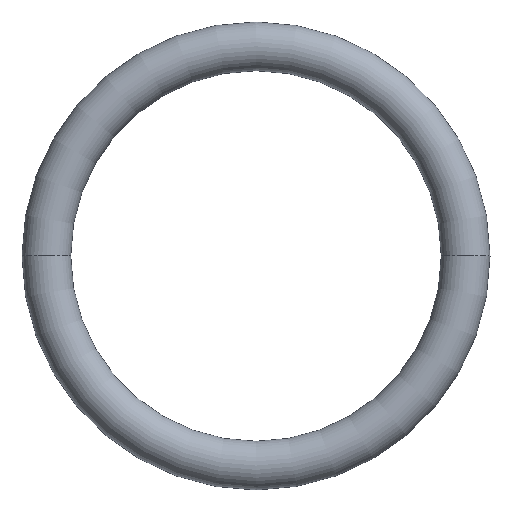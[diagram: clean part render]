
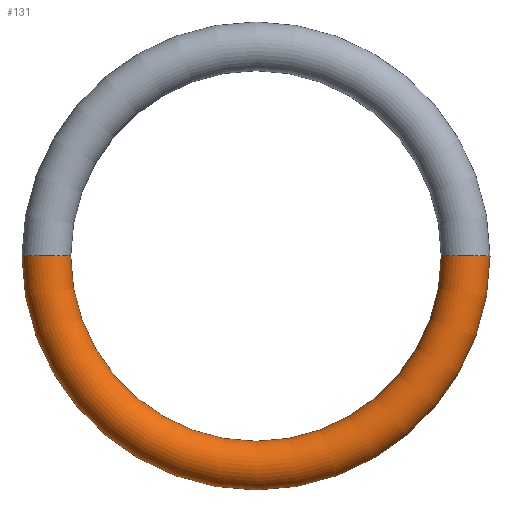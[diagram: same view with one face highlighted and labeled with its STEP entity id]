
A CAD part, top view. The second image highlights one B-rep face of the part: STEP entity #131.
In plain terms, the highlighted toroidal (fillet/blend) face has major radius 10.75 mm and minor radius 1.25 mm.
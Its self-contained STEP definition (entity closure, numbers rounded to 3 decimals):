
#5 = EDGE_LOOP ( 'NONE', ( #31, #107, #93, #45 ) ) ;
#9 = CARTESIAN_POINT ( 'NONE',  ( 0., 0., 0.084 ) ) ;
#17 = DIRECTION ( 'NONE',  ( 0., 1., 0. ) ) ;
#20 = VERTEX_POINT ( 'NONE', #121 ) ;
#24 = DIRECTION ( 'NONE',  ( 0., -1., 0. ) ) ;
#25 = AXIS2_PLACEMENT_3D ( 'NONE', #9, #153, #142 ) ;
#26 = DIRECTION ( 'NONE',  ( -1., 0., 0. ) ) ;
#27 = DIRECTION ( 'NONE',  ( 0., 0., 1. ) ) ;
#28 = AXIS2_PLACEMENT_3D ( 'NONE', #143, #24, #117 ) ;
#31 = ORIENTED_EDGE ( 'NONE', *, *, #32, .F. ) ;
#32 = EDGE_CURVE ( 'NONE', #66, #53, #48, .T. ) ;
#40 = EDGE_CURVE ( 'NONE', #66, #20, #110, .T. ) ;
#45 = ORIENTED_EDGE ( 'NONE', *, *, #60, .F. ) ;
#48 = CIRCLE ( 'NONE', #65, 1.25 ) ;
#53 = VERTEX_POINT ( 'NONE', #58 ) ;
#58 = CARTESIAN_POINT ( 'NONE',  ( -9.5, 0., 0.084 ) ) ;
#60 = EDGE_CURVE ( 'NONE', #53, #166, #130, .T. ) ;
#65 = AXIS2_PLACEMENT_3D ( 'NONE', #147, #17, #26 ) ;
#66 = VERTEX_POINT ( 'NONE', #126 ) ;
#67 = CIRCLE ( 'NONE', #28, 1.25 ) ;
#68 = DIRECTION ( 'NONE',  ( 0., 0., 1. ) ) ;
#72 = DIRECTION ( 'NONE',  ( 1., 0., 0. ) ) ;
#88 = DIRECTION ( 'NONE',  ( 1., 0., 0. ) ) ;
#93 = ORIENTED_EDGE ( 'NONE', *, *, #129, .T. ) ;
#102 = CARTESIAN_POINT ( 'NONE',  ( 9.5, 0., 0.084 ) ) ;
#107 = ORIENTED_EDGE ( 'NONE', *, *, #40, .T. ) ;
#110 = CIRCLE ( 'NONE', #25, 12. ) ;
#117 = DIRECTION ( 'NONE',  ( 0., 0., -1. ) ) ;
#118 = TOROIDAL_SURFACE ( 'NONE', #163, 10.75, 1.25 ) ;
#121 = CARTESIAN_POINT ( 'NONE',  ( 12., 0., 0.084 ) ) ;
#126 = CARTESIAN_POINT ( 'NONE',  ( -12., 0., 0.084 ) ) ;
#129 = EDGE_CURVE ( 'NONE', #20, #166, #67, .T. ) ;
#130 = CIRCLE ( 'NONE', #156, 9.5 ) ;
#131 = ADVANCED_FACE ( 'NONE', ( #158 ), #118, .T. ) ;
#142 = DIRECTION ( 'NONE',  ( 1., 0., 0. ) ) ;
#143 = CARTESIAN_POINT ( 'NONE',  ( 10.75, 0., 0.084 ) ) ;
#147 = CARTESIAN_POINT ( 'NONE',  ( -10.75, 0., 0.084 ) ) ;
#153 = DIRECTION ( 'NONE',  ( 0., 0., 1. ) ) ;
#155 = CARTESIAN_POINT ( 'NONE',  ( 0., 0., 0.084 ) ) ;
#156 = AXIS2_PLACEMENT_3D ( 'NONE', #175, #68, #72 ) ;
#158 = FACE_OUTER_BOUND ( 'NONE', #5, .T. ) ;
#163 = AXIS2_PLACEMENT_3D ( 'NONE', #155, #27, #88 ) ;
#166 = VERTEX_POINT ( 'NONE', #102 ) ;
#175 = CARTESIAN_POINT ( 'NONE',  ( 0., 0., 0.084 ) ) ;
